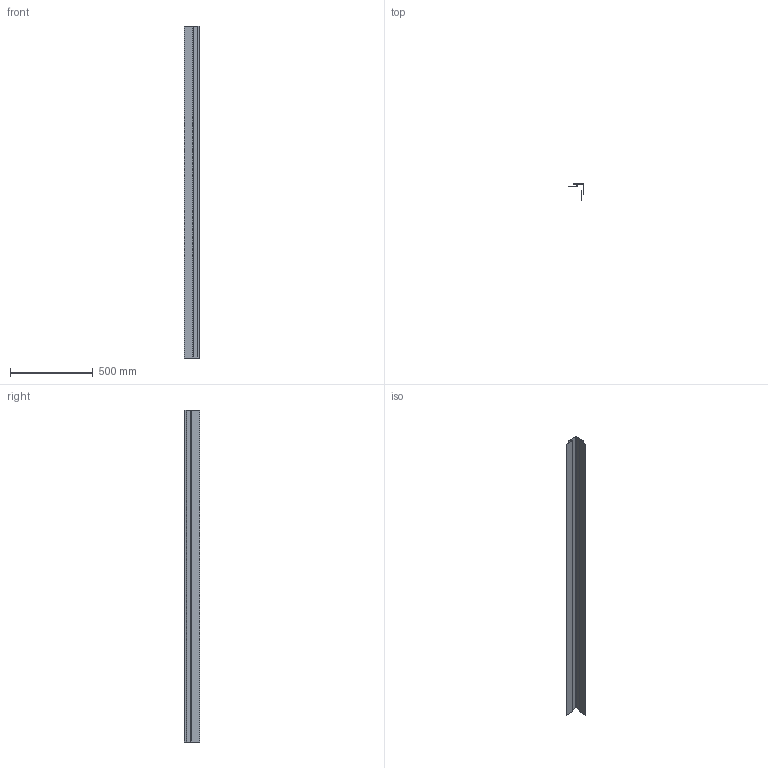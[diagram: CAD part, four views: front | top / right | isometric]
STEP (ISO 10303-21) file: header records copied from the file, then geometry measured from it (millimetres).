
FILE_DESCRIPTION (( 'STEP AP203' ), '1' );
FILE_NAME ('M20D.STEP', '2018-06-19T11:58:43', ( 'Michael Moliner' ), ( '' ), 'SwSTEP 2.0', 'SolidWorks 2018', '' );
FILE_SCHEMA (( 'CONFIG_CONTROL_DESIGN' ));
Length unit declared in the file: inch
Products named in the file (2): M20D
Bounding box: 95.5 x 95.5 x 2000 mm (x, y, z)
Volume: 307900 mm3; surface area: 1214544.8 mm2
Topology: 1 solids, 1 shells, 36 faces, 102 edges, 68 vertices
Faces by surface type: plane 20, cylinder 16
Entity records: 1335 total; most frequent: DIRECTION 210, CARTESIAN_POINT 208, ORIENTED_EDGE 204, EDGE_CURVE 102, AXIS2_PLACEMENT_3D 70, VECTOR 70, LINE 70, VERTEX_POINT 68
